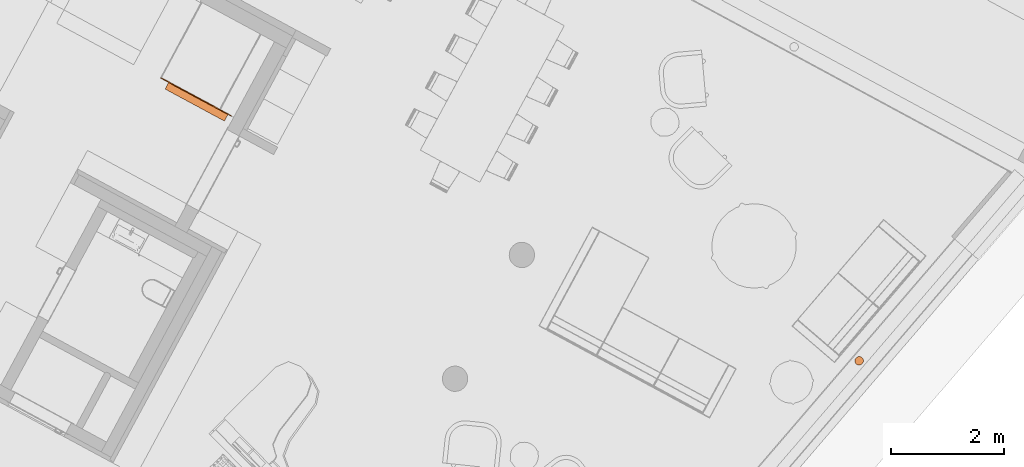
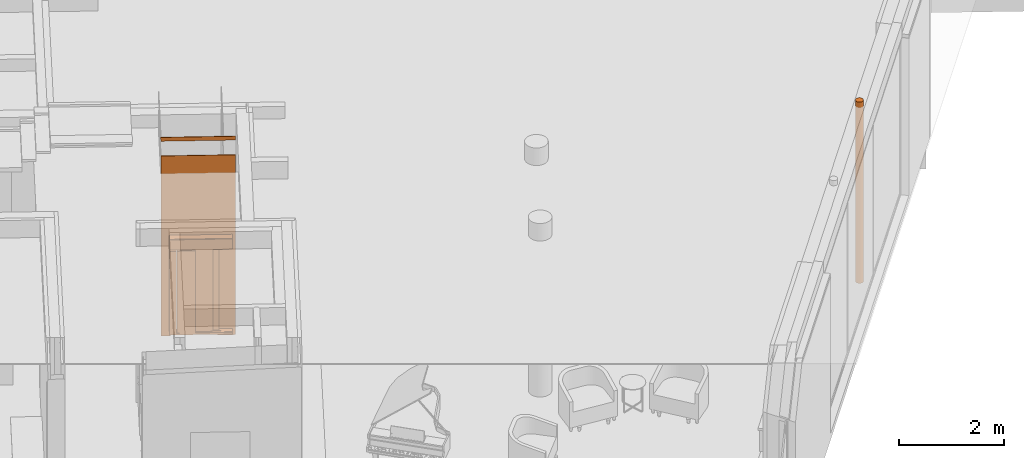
# One storey, part 47 of 52: 3 proxies, 1 opening.
"""IFC2X3 building model written with IfcOpenShell, lengths in metres."""

from ifc_helpers import new_model, entity, si_unit, converted_unit, derived_unit, money_unit, direction, frame, origin_with_axes, origin_2d_with_axis, place, context, subcontext, project, spatial, rectangle, extrude, open_shell, faceted_brep, surface_model, material, type_object, element, fill, save


model = new_model("IFC2X3")

# Units and contexts
model_context = context("Model", 3, precision=1e-05, world=origin_with_axes(), true_north=direction((0.0, 1.0)))
body_context = subcontext(model_context, "Body", "Model", "MODEL_VIEW")
ifc_project = project(units=[si_unit("LENGTHUNIT", "METRE"), si_unit("AREAUNIT", "SQUARE_METRE"), si_unit("VOLUMEUNIT", "CUBIC_METRE"), converted_unit("PLANEANGLEUNIT", "DEGREE", entity("IfcPlaneAngleMeasure", 0.0174532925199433), si_unit("PLANEANGLEUNIT", "RADIAN"), dimensions=[0, 0, 0, 0, 0, 0, 0]), money_unit("EUR"), converted_unit("TIMEUNIT", "Year", entity("IfcTimeMeasure", 31556926.0), si_unit("TIMEUNIT", "SECOND"), dimensions=[0, 0, 1, 0, 0, 0, 0]), si_unit("MASSUNIT", "GRAM", prefix="KILO"), si_unit("THERMODYNAMICTEMPERATUREUNIT", "DEGREE_CELSIUS"), si_unit("LUMINOUSINTENSITYUNIT", "LUMEN"), si_unit("ENERGYUNIT", "JOULE", prefix="MEGA"), derived_unit("THERMALCONDUCTANCEUNIT", [(si_unit("POWERUNIT", "WATT"), 1), (si_unit("LENGTHUNIT", "METRE"), -1), (si_unit("THERMODYNAMICTEMPERATUREUNIT", "KELVIN"), -1)]), derived_unit("SPECIFICHEATCAPACITYUNIT", [(si_unit("ENERGYUNIT", "JOULE"), 1), (si_unit("MASSUNIT", "GRAM", prefix="KILO"), -1), (si_unit("THERMODYNAMICTEMPERATUREUNIT", "KELVIN"), -1)]), derived_unit("MASSDENSITYUNIT", [(si_unit("MASSUNIT", "GRAM", prefix="KILO"), 1), (si_unit("VOLUMEUNIT", "CUBIC_METRE"), -1)])], contexts=[model_context])

# Site, building, storey
site_placement = place(None, frame((-3.949935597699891, 1.740105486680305, 0.0), z_axis=(0.0, 0.0, 1.0), x_axis=(0.8799804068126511, -0.475009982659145, 0.0)))
site = spatial("IfcSite", under=ifc_project, at=site_placement, Name="Gelände", CompositionType="ELEMENT")
building_placement = place(site_placement, origin_with_axes())
building = spatial("IfcBuilding", under=site, at=building_placement, Name="Gebäude", CompositionType="ELEMENT")
storey_placement = place(building_placement, origin_with_axes())
storey = spatial("IfcBuildingStorey", under=building, at=storey_placement, Name="Erdgeschoss", CompositionType="ELEMENT", Elevation=0.0)

# Proxies, opening
ifc_material_1 = material(Name="Glas, Normalglas")
building_element_proxy_type_1 = type_object("IfcBuildingElementProxyType", Name="Glas, Normalglas 10", PredefinedType="NOTDEFINED")
proxy_1_placement = place(storey_placement, frame((15.6924954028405, 9.127799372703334, -0.15), z_axis=(0.0, 0.0, 1.0), x_axis=(0.9999999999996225, 8.689518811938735e-07, 0.0)))
proxy_1 = element("IfcBuildingElementProxy", 1, at=proxy_1_placement, inside=storey, type_object=building_element_proxy_type_1, material=ifc_material_1, Name="I-Wand035", context=body_context, shape_type="Brep", body=[
    faceted_brep([(0.1842390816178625, 0.009999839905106, 2.2), (0.1842390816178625, 0.009999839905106, 0.15), (0.1842390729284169, 0.009999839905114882, 0.0), (0.01000001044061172, 0.00999999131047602, 0.0), (0.01000001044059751, 0.00999999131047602, 4.170000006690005), (1.424798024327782, 0.009998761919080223, 4.170000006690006), (1.424798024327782, 0.009998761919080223, 0.0), (1.084239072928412, 0.0099990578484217, 0.0), (1.084239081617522, 0.009999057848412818, 0.15), (1.084239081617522, 0.009999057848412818, 2.2), (0.1842390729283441, -1.600948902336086e-07, 2.2), (0.1842390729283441, -1.600948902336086e-07, 0.15), (0.1842390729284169, -1.600948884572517e-07, 0.0), (0.009999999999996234, -8.689518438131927e-09, 0.0), (0.009999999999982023, -8.689518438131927e-09, 4.170000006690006), (1.424798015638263, -1.238080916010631e-06, 4.170000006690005), (1.424798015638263, -1.238080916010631e-06, 0.0), (1.084239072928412, -9.421515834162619e-07, 0.0), (1.084239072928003, -9.421515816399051e-07, 0.15), (1.084239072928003, -9.421515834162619e-07, 2.2)], [[[0, 1, 2, 3, 4, 5, 6, 7, 8, 9]], [[1, 0, 10, 11]], [[1, 11, 12, 2]], [[2, 12, 13, 3]], [[14, 4, 3, 13]], [[15, 5, 4, 14]], [[5, 15, 16, 6]], [[17, 7, 6, 16]], [[18, 8, 7, 17]], [[9, 8, 18, 19]], [[0, 9, 19, 10]], [[19, 18, 17, 16, 15, 14, 13, 12, 11, 10]]]),
    faceted_brep([(1.424798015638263, -1.238080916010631e-06, 4.600000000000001), (1.424798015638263, -1.238080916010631e-06, 4.510000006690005), (1.424798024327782, 0.009998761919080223, 4.510000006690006), (1.424798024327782, 0.009998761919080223, 4.600000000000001), (0.009999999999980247, -8.689518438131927e-09, 4.55), (0.009999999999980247, -8.689518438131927e-09, 4.510000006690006), (0.0, 0.0, 4.600000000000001), (0.0, 0.0, 4.55), (0.01000001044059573, 0.00999999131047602, 4.510000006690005), (0.01000001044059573, 0.00999999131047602, 4.55), (1.044059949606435e-08, 0.009999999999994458, 4.55), (8.689518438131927e-09, 0.009999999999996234, 4.600000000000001)], [[[0, 1, 2, 3]], [[4, 5, 1, 0, 6, 7]], [[5, 8, 2, 1]], [[3, 2, 8, 9, 10, 11]], [[6, 0, 3, 11]], [[9, 8, 5, 4]], [[6, 11, 10, 7]], [[4, 7, 10, 9]]]),
])
opening_placement = place(proxy_1_placement, frame((0.6342390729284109, 0.0, 0.15), z_axis=(0.0, 0.0, 1.0), x_axis=(1.0, 0.0, 0.0)))
opening = element("IfcOpeningElement", 2, at=opening_placement, cuts=proxy_1, Name="Tür-011", context=body_context, shape_type="SweptSolid", body=[
    extrude(rectangle(XDim=0.9000000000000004, YDim=2.05, at=origin_2d_with_axis()), frame((8.689756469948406e-09, 0.009999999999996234, 1.025), z_axis=(8.689518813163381e-07, 0.9999999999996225, 0.0), x_axis=(0.9999999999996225, -8.689518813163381e-07, 0.0)), (0.0, 0.0, -1.0), 0.03),
])
building_element_proxy_type_2 = type_object("IfcBuildingElementProxyType", Name="Teleskoptür 22", PredefinedType="NOTDEFINED")
proxy_2_placement = place(opening_placement, frame((0.4499999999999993, 0.0, 0.0), z_axis=(0.0, 0.0, 1.0), x_axis=(-1.0, 0.0, 0.0)))
proxy_2 = element("IfcBuildingElementProxy", 3, at=proxy_2_placement, inside=storey, type_object=building_element_proxy_type_2, Name="Tür-011", context=body_context, shape_type="SurfaceModel", body=[
    faceted_brep([(-0.2774999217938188, 0.09000118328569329, 1.9), (-0.2774999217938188, 0.09000118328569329, 1.938), (0.9200000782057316, 0.09000014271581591, 1.938), (0.9200000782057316, 0.09000014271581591, 1.9), (-0.2774999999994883, 1.18328572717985e-06, 1.9), (-0.2774999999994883, 1.18328572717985e-06, 2.18), (-0.2774998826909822, 0.1350011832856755, 2.18), (-0.2774998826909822, 0.1350011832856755, 2.177), (-0.2774999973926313, 0.003001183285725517, 2.177), (-0.2774999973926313, 0.003001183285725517, 1.903), (-0.2774999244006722, 0.08700118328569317, 1.903), (-0.2774999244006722, 0.08700118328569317, 1.938), (0.9200000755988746, 0.0870001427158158, 1.938), (0.9200000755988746, 0.0870001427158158, 1.903), (0.9200000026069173, 0.003000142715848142, 1.903), (0.9200000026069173, 0.003000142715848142, 2.177), (0.9200001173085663, 0.1350001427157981, 2.177), (0.9200001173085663, 0.1350001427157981, 2.18), (0.9200000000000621, 1.42715849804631e-07, 2.18), (0.9200000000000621, 1.42715849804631e-07, 1.9)], [[[0, 1, 2, 3]], [[0, 4, 5, 6, 7, 8, 9, 10, 11, 1]], [[1, 11, 12, 2]], [[3, 2, 12, 13, 14, 15, 16, 17, 18, 19]], [[4, 0, 3, 19]], [[5, 4, 19, 18]], [[6, 5, 18, 17]], [[7, 6, 17, 16]], [[8, 7, 16, 15]], [[9, 8, 15, 14]], [[10, 9, 14, 13]], [[11, 10, 13, 12]]]),
    faceted_brep([(-0.2774999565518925, 0.05000118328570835, 1.903), (-0.2774999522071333, 0.05500118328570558, 1.903), (0.9200000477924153, 0.0550001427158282, 1.903), (0.9200000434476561, 0.0500001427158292, 1.903), (-0.2774999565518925, 0.05000118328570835, 2.14), (-0.2774999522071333, 0.05500118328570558, 2.14), (0.9200000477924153, 0.0550001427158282, 2.14), (0.9200000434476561, 0.0500001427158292, 2.14)], [[[0, 1, 2, 3]], [[0, 4, 5, 1]], [[1, 5, 6, 2]], [[3, 2, 6, 7]], [[4, 0, 3, 7]], [[5, 4, 7, 6]]]),
    faceted_brep([(-0.2774999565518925, 0.05000118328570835, 2.13), (-0.277499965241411, 0.04000118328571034, 2.13), (0.9200000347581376, 0.04000014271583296, 2.13), (0.9200000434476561, 0.0500001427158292, 2.13), (-0.2774999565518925, 0.05000118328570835, 2.07), (-0.277499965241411, 0.04000118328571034, 2.07), (0.9200000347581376, 0.04000014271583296, 2.07), (0.9200000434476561, 0.0500001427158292, 2.07)], [[[0, 1, 2, 3]], [[0, 4, 5, 1]], [[1, 5, 6, 2]], [[3, 2, 6, 7]], [[4, 0, 3, 7]], [[5, 4, 7, 6]]]),
    faceted_brep([(-0.2774999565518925, 0.05000118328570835, 2.0), (-0.277499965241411, 0.04000118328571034, 2.0), (0.9200000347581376, 0.04000014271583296, 2.0), (0.9200000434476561, 0.0500001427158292, 2.0), (-0.2774999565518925, 0.05000118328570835, 1.96), (-0.277499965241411, 0.04000118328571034, 1.96), (0.9200000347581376, 0.04000014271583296, 1.96), (0.9200000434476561, 0.0500001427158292, 1.96)], [[[0, 1, 2, 3]], [[0, 4, 5, 1]], [[1, 5, 6, 2]], [[3, 2, 6, 7]], [[4, 0, 3, 7]], [[5, 4, 7, 6]]]),
    faceted_brep([(-0.2774999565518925, 0.05000118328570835, 2.07), (-0.2774999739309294, 0.03000118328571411, 2.07), (0.9200000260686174, 0.03000014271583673, 2.07), (0.9200000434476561, 0.0500001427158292, 2.07), (-0.2774999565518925, 0.05000118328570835, 2.0), (-0.2774999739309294, 0.03000118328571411, 2.0), (0.9200000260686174, 0.03000014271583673, 2.0), (0.9200000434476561, 0.0500001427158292, 2.0)], [[[0, 1, 2, 3]], [[0, 4, 5, 1]], [[1, 5, 6, 2]], [[3, 2, 6, 7]], [[4, 0, 3, 7]], [[5, 4, 7, 6]]]),
    faceted_brep([(-0.2774999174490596, 0.09500118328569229, 1.903), (-0.2774999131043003, 0.1000011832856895, 1.903), (0.92000008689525, 0.1000001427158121, 1.903), (0.9200000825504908, 0.09500014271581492, 1.903), (-0.2774999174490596, 0.09500118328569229, 2.14), (-0.2774999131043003, 0.1000011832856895, 2.14), (0.92000008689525, 0.1000001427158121, 2.14), (0.9200000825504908, 0.09500014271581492, 2.14)], [[[0, 1, 2, 3]], [[0, 4, 5, 1]], [[1, 5, 6, 2]], [[3, 2, 6, 7]], [[4, 0, 3, 7]], [[5, 4, 7, 6]]]),
    faceted_brep([(-0.2774999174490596, 0.09500118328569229, 2.13), (-0.277499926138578, 0.08500118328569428, 2.13), (0.9200000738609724, 0.0850001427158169, 2.13), (0.9200000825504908, 0.09500014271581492, 2.13), (-0.2774999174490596, 0.09500118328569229, 2.07), (-0.277499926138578, 0.08500118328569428, 2.07), (0.9200000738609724, 0.0850001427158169, 2.07), (0.9200000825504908, 0.09500014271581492, 2.07)], [[[0, 1, 2, 3]], [[0, 4, 5, 1]], [[1, 5, 6, 2]], [[3, 2, 6, 7]], [[4, 0, 3, 7]], [[5, 4, 7, 6]]]),
    faceted_brep([(-0.2774999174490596, 0.09500118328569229, 2.0), (-0.277499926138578, 0.08500118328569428, 2.0), (0.9200000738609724, 0.0850001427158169, 2.0), (0.9200000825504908, 0.09500014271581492, 2.0), (-0.2774999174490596, 0.09500118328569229, 1.96), (-0.277499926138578, 0.08500118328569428, 1.96), (0.9200000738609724, 0.0850001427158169, 1.96), (0.9200000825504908, 0.09500014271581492, 1.96)], [[[0, 1, 2, 3]], [[0, 4, 5, 1]], [[1, 5, 6, 2]], [[3, 2, 6, 7]], [[4, 0, 3, 7]], [[5, 4, 7, 6]]]),
    faceted_brep([(-0.2774999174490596, 0.09500118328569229, 2.07), (-0.2774999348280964, 0.07500118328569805, 2.07), (0.9200000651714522, 0.07500014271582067, 2.07), (0.9200000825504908, 0.09500014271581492, 2.07), (-0.2774999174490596, 0.09500118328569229, 2.0), (-0.2774999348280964, 0.07500118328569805, 2.0), (0.9200000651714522, 0.07500014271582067, 2.0), (0.9200000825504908, 0.09500014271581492, 2.0)], [[[0, 1, 2, 3]], [[0, 4, 5, 1]], [[1, 5, 6, 2]], [[3, 2, 6, 7]], [[4, 0, 3, 7]], [[5, 4, 7, 6]]]),
    faceted_brep([(-0.2774999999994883, 1.18328572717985e-06, 0.0), (-0.2774999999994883, 1.18328572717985e-06, -0.04), (0.9200000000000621, 1.42715849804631e-07, -0.04), (0.9200000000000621, 1.42715849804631e-07, 0.0), (-0.2774999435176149, 0.06500118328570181, 0.0), (-0.2774999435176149, 0.06500118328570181, -0.009999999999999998), (-0.2774999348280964, 0.07500118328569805, -0.009999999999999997), (-0.2774999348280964, 0.07500118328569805, 0.0), (-0.2774999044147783, 0.110001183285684, 0.0), (-0.2774999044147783, 0.110001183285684, -0.009999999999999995), (-0.2774998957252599, 0.1200011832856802, -0.009999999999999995), (-0.2774998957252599, 0.1200011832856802, 0.0), (-0.2774998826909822, 0.1350011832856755, 0.0), (-0.2774998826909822, 0.1350011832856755, -0.03999999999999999), (0.9200001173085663, 0.1350001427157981, -0.03999999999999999), (0.9200001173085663, 0.1350001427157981, 0.0), (0.9200001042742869, 0.1200001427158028, 0.0), (0.9200001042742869, 0.1200001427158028, -0.009999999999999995), (0.9200000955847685, 0.1100001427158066, -0.009999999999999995), (0.9200000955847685, 0.1100001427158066, 0.0), (0.9200000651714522, 0.07500014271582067, 0.0), (0.9200000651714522, 0.07500014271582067, -0.009999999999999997), (0.9200000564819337, 0.06500014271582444, -0.009999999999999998), (0.9200000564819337, 0.06500014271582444, 0.0)], [[[0, 1, 2, 3]], [[0, 4, 5, 6, 7, 8, 9, 10, 11, 12, 13, 1]], [[1, 13, 14, 2]], [[3, 2, 14, 15, 16, 17, 18, 19, 20, 21, 22, 23]], [[4, 0, 3, 23]], [[5, 4, 23, 22]], [[6, 5, 22, 21]], [[7, 6, 21, 20]], [[8, 7, 20, 19]], [[9, 8, 19, 18]], [[10, 9, 18, 17]], [[11, 10, 17, 16]], [[12, 11, 16, 15]], [[13, 12, 15, 14]]]),
    faceted_brep([(0.1150000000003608, 8.422221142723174e-07, 0.0), (0.1150000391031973, 0.04500084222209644, 0.0), (0.1150000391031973, 0.04500084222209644, 1.9), (0.1150000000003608, 8.422221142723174e-07, 1.9), (-0.01999999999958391, 9.59530618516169e-07, 0.0), (-0.01999996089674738, 0.04500095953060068, 0.0), (-0.01999996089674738, 0.04500095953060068, 1.9), (-0.01999999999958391, 9.59530618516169e-07, 1.9)], [[[0, 1, 2, 3]], [[0, 4, 5, 1]], [[1, 5, 6, 2]], [[3, 2, 6, 7]], [[4, 0, 3, 7]], [[5, 4, 7, 6]]]),
    faceted_brep([(0.9200000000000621, 1.42715849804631e-07, 0.0), (0.9200001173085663, 0.1350001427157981, 0.0), (0.9200001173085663, 0.1350001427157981, 1.9), (0.9200000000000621, 1.42715849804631e-07, 1.9), (0.785000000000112, 2.600243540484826e-07, 0.0), (0.7850001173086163, 0.1350002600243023, 0.0), (0.7850001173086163, 0.1350002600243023, 1.9), (0.785000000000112, 2.600243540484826e-07, 1.9)], [[[0, 1, 2, 3]], [[0, 4, 5, 1]], [[1, 5, 6, 2]], [[3, 2, 6, 7]], [[4, 0, 3, 7]], [[5, 4, 7, 6]]]),
    faceted_brep([(-0.1800000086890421, -0.009998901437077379, 0.8), (-0.1000000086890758, -0.00999897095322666, 0.8), (-0.1000000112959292, -0.012998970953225, 0.8), (-0.1800000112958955, -0.01299890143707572, 0.8), (-0.1800000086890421, -0.009998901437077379, 1.06), (-0.1000000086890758, -0.00999897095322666, 1.06), (-0.1700000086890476, -0.009998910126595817, 1.03), (-0.1700000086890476, -0.009998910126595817, 0.9400000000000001), (-0.1100000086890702, -0.009998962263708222, 0.9400000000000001), (-0.1100000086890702, -0.009998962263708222, 1.03), (-0.1500000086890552, -0.009998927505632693, 0.8400000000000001), (-0.1300000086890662, -0.009998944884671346, 0.8400000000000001), (-0.1300000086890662, -0.009998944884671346, 0.8600000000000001), (-0.1500000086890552, -0.009998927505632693, 0.8600000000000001), (-0.1500000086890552, -0.009998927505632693, 0.88), (-0.1300000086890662, -0.009998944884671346, 0.88), (-0.1300000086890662, -0.009998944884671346, 0.9), (-0.1500000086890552, -0.009998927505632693, 0.9), (-0.1000000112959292, -0.012998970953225, 1.06), (-0.1800000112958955, -0.01299890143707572, 1.06), (-0.170000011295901, -0.01299891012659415, 1.03), (-0.1100000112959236, -0.01299896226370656, 1.03), (-0.1100000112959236, -0.01299896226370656, 0.9400000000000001), (-0.170000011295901, -0.01299891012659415, 0.9400000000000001), (-0.1500000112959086, -0.01299892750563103, 0.8400000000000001), (-0.1500000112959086, -0.01299892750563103, 0.8600000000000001), (-0.1300000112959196, -0.01299894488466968, 0.8600000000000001), (-0.1300000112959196, -0.01299894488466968, 0.8400000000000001), (-0.1500000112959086, -0.01299892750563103, 0.88), (-0.1500000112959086, -0.01299892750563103, 0.9), (-0.1300000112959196, -0.01299894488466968, 0.9), (-0.1300000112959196, -0.01299894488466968, 0.88)], [[[0, 1, 2, 3]], [[0, 4, 5, 1], [6, 7, 8, 9], [10, 11, 12, 13], [14, 15, 16, 17]], [[1, 5, 18, 2]], [[3, 2, 18, 19], [20, 21, 22, 23], [24, 25, 26, 27], [28, 29, 30, 31]], [[4, 0, 3, 19]], [[5, 4, 19, 18]], [[7, 6, 20, 23]], [[8, 7, 23, 22]], [[9, 8, 22, 21]], [[6, 9, 21, 20]], [[11, 10, 24, 27]], [[12, 11, 27, 26]], [[13, 12, 26, 25]], [[10, 13, 25, 24]], [[15, 14, 28, 31]], [[16, 15, 31, 30]], [[17, 16, 30, 29]], [[14, 17, 29, 28]]]),
    faceted_brep([(-0.1700000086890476, -0.009998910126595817, 0.9400000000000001), (-0.1100000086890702, -0.009998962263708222, 0.9400000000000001), (-0.1100000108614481, -0.01249896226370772, 0.9400000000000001), (-0.1700000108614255, -0.01249891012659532, 0.9400000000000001), (-0.1700000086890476, -0.009998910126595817, 1.03), (-0.1100000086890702, -0.009998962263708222, 1.03), (-0.1100000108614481, -0.01249896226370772, 1.03), (-0.1700000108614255, -0.01249891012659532, 1.03)], [[[0, 1, 2, 3]], [[0, 4, 5, 1]], [[1, 5, 6, 2]], [[3, 2, 6, 7]], [[4, 0, 3, 7]], [[5, 4, 7, 6]]]),
    surface_model("IfcShellBasedSurfaceModel", [(-0.1560000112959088, -0.01299892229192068, 1.005), (-0.1500000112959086, -0.01299892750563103, 1.021), (-0.1440000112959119, -0.01299893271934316, 1.005)], [open_shell([[[0, 1, 2]]])]),
    surface_model("IfcShellBasedSurfaceModel", [(-0.1300000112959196, -0.01299894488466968, 1.005), (-0.1360000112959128, -0.01299893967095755, 1.021), (-0.1240000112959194, -0.01299895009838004, 1.021)], [open_shell([[[0, 1, 2]]])]),
    surface_model("IfcShellBasedSurfaceModel", [(-0.1427272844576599, -0.01349893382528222, 0.9820000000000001), (-0.1427272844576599, -0.01349893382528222, 0.9716363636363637), (-0.144090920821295, -0.01349893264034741, 0.9702727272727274), (-0.1454545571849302, -0.01349893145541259, 0.9716363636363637), (-0.1454545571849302, -0.01349893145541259, 0.9820000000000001), (-0.144090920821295, -0.01349893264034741, 0.9833636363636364)], [open_shell([[[0, 1, 2, 3, 4, 5]]])]),
    surface_model("IfcShellBasedSurfaceModel", [(-0.1427272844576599, -0.01349893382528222, 0.9683636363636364), (-0.1427272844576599, -0.01349893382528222, 0.9580000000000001), (-0.144090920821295, -0.01349893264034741, 0.9566363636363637), (-0.1454545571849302, -0.01349893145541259, 0.9580000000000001), (-0.1454545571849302, -0.01349893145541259, 0.9683636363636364), (-0.144090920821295, -0.01349893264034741, 0.9697272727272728)], [open_shell([[[0, 1, 2, 3, 4, 5]]])]),
    surface_model("IfcShellBasedSurfaceModel", [(-0.1239091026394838, -0.01349895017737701, 0.9822727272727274), (-0.1342727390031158, -0.01349894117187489, 0.9822727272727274), (-0.1356363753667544, -0.01349893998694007, 0.9836363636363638), (-0.1342727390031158, -0.01349894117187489, 0.9850000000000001), (-0.1239091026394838, -0.01349895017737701, 0.9850000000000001), (-0.1225454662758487, -0.01349895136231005, 0.9836363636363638)], [open_shell([[[0, 1, 2, 3, 4, 5]]])]),
    surface_model("IfcShellBasedSurfaceModel", [(-0.1209091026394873, -0.01349895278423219, 0.9820000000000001), (-0.1209091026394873, -0.01349895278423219, 0.9716363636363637), (-0.1222727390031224, -0.01349895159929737, 0.9702727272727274), (-0.1236363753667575, -0.01349895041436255, 0.9716363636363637), (-0.1236363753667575, -0.01349895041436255, 0.9820000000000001), (-0.1222727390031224, -0.01349895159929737, 0.9833636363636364)], [open_shell([[[0, 1, 2, 3, 4, 5]]])]),
    surface_model("IfcShellBasedSurfaceModel", [(-0.1239091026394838, -0.01349895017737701, 0.9686363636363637), (-0.1342727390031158, -0.01349894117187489, 0.9686363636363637), (-0.1356363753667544, -0.01349893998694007, 0.9700000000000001), (-0.1342727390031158, -0.01349894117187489, 0.9713636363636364), (-0.1239091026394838, -0.01349895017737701, 0.9713636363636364), (-0.1225454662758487, -0.01349895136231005, 0.9700000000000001)], [open_shell([[[0, 1, 2, 3, 4, 5]]])]),
    surface_model("IfcShellBasedSurfaceModel", [(-0.1345454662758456, -0.01349894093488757, 0.9683636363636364), (-0.1345454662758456, -0.01349894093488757, 0.9580000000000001), (-0.1359091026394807, -0.01349893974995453, 0.9566363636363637), (-0.1372727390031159, -0.01349893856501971, 0.9580000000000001), (-0.1372727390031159, -0.01349893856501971, 0.9683636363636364), (-0.1359091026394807, -0.01349893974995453, 0.9697272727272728)], [open_shell([[[0, 1, 2, 3, 4, 5]]])]),
    surface_model("IfcShellBasedSurfaceModel", [(-0.1239091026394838, -0.01349895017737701, 0.9550000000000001), (-0.1342727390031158, -0.01349894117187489, 0.9550000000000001), (-0.1356363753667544, -0.01349893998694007, 0.9563636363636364), (-0.1342727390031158, -0.01349894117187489, 0.9577272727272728), (-0.1239091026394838, -0.01349895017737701, 0.9577272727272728), (-0.1225454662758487, -0.01349895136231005, 0.9563636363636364)], [open_shell([[[0, 1, 2, 3, 4, 5]]])]),
    faceted_brep([(-0.1300000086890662, -0.009998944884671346, 0.8400000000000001), (-0.1500000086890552, -0.009998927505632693, 0.8400000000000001), (-0.1500000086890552, -0.009998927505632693, 0.8600000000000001), (-0.1300000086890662, -0.009998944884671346, 0.8600000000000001), (-0.1300000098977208, -0.0114989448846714, 0.8399999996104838), (-0.1500000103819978, -0.01149892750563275, 0.8399999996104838), (-0.1500000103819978, -0.01149892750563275, 0.8600000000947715), (-0.1300000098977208, -0.0114989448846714, 0.8600000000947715), (-0.131400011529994, -0.01289894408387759, 0.8414000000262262), (-0.1486000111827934, -0.01289892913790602, 0.8414000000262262), (-0.1486000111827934, -0.01289892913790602, 0.8585999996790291), (-0.131400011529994, -0.01289894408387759, 0.8585999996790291)], [[[0, 1, 2, 3]], [[1, 0, 4, 5]], [[2, 1, 5, 6]], [[3, 2, 6, 7]], [[0, 3, 7, 4]], [[5, 4, 8, 9]], [[6, 5, 9, 10]], [[7, 6, 10, 11]], [[4, 7, 11, 8]], [[10, 9, 8, 11]]]),
    surface_model("IfcShellBasedSurfaceModel", [(-0.1350000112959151, -0.01299894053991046, 0.8550000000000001), (-0.1400000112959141, -0.01299893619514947, 0.8440000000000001), (-0.1450000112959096, -0.01299893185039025, 0.8550000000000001)], [open_shell([[[0, 1, 2]]])]),
    faceted_brep([(-0.1300000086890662, -0.009998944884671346, 0.8800000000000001), (-0.1500000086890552, -0.009998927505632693, 0.8800000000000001), (-0.1500000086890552, -0.009998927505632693, 0.9000000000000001), (-0.1300000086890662, -0.009998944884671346, 0.9000000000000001), (-0.1300000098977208, -0.0114989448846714, 0.8799999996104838), (-0.1500000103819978, -0.01149892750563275, 0.8799999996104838), (-0.1500000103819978, -0.01149892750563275, 0.9000000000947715), (-0.1300000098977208, -0.0114989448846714, 0.9000000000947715), (-0.131400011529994, -0.01289894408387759, 0.8814000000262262), (-0.1486000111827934, -0.01289892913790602, 0.8814000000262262), (-0.1486000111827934, -0.01289892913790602, 0.8985999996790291), (-0.131400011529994, -0.01289894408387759, 0.8985999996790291)], [[[0, 1, 2, 3]], [[1, 0, 4, 5]], [[2, 1, 5, 6]], [[3, 2, 6, 7]], [[0, 3, 7, 4]], [[5, 4, 8, 9]], [[6, 5, 9, 10]], [[7, 6, 10, 11]], [[4, 7, 11, 8]], [[10, 9, 8, 11]]]),
    surface_model("IfcShellBasedSurfaceModel", [(-0.1350000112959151, -0.01299894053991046, 0.8850000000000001), (-0.1450000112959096, -0.01299893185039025, 0.8850000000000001), (-0.1400000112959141, -0.01299893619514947, 0.8960000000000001)], [open_shell([[[0, 1, 2]]])]),
    faceted_brep([(0.4275000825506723, 0.09500057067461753, 0.003000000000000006), (0.4275001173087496, 0.1350005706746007, 0.003000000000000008), (0.7800001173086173, 0.1350002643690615, 0.003000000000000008), (0.7800000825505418, 0.09500026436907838, 0.003000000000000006), (0.4275000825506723, 0.09500057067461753, 1.9), (0.4275001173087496, 0.1350005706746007, 1.9), (0.7800001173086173, 0.1350002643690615, 1.9), (0.7800000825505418, 0.09500026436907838, 1.9)], [[[0, 1, 2, 3]], [[4, 5, 1, 0]], [[1, 5, 6, 2]], [[3, 2, 6, 7]], [[0, 3, 7, 4]], [[7, 6, 5, 4]]]),
    faceted_brep([(0.09500004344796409, 0.0500008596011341, 0.003000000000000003), (0.09500007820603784, 0.09000085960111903, 0.003000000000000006), (0.4475000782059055, 0.09000055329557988, 0.003000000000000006), (0.4475000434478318, 0.05000055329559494, 0.003000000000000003), (0.09500004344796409, 0.0500008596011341, 1.9), (0.09500007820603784, 0.09000085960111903, 1.9), (0.4475000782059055, 0.09000055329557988, 1.9), (0.4475000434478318, 0.05000055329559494, 1.9)], [[[0, 1, 2, 3]], [[4, 5, 1, 0]], [[1, 5, 6, 2]], [[3, 2, 6, 7]], [[0, 3, 7, 4]], [[7, 6, 5, 4]]]),
])
fill(opening, proxy_2)

# Proxy
ifc_material_2 = material(Name="Metall, Edelstahl")
building_element_proxy_type_3 = type_object("IfcBuildingElementProxyType", Name="Metall, Edelstahl D152", PredefinedType="NOTDEFINED")
proxy_3_placement = place(storey_placement, frame((29.00554945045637, 10.6023659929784, -0.1800000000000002), z_axis=(0.0, 0.0, 1.0), x_axis=(0.9769696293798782, -0.2133784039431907, 0.0)))
element("IfcBuildingElementProxy", 4, at=proxy_3_placement, inside=storey, type_object=building_element_proxy_type_3, material=ifc_material_2, Name="Stütze-003", context=body_context, shape_type="Brep", body=[
    faceted_brep([(-0.07600000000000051, 0.0, 4.200000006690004), (-0.07600000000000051, 0.0, 0.0), (-0.0722802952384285, -0.02348529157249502, 0.0), (-0.0722802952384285, -0.02348529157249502, 4.200000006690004), (-0.0722802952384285, 0.02348529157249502, 4.200000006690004), (-0.0722802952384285, 0.02348529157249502, 0.0), (-0.06148529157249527, 0.04467167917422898, 0.0), (-0.04467167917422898, 0.06148529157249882, 0.0), (-0.02348529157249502, 0.07228029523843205, 0.0), (0.0, 0.07600000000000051, 0.0), (0.02348529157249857, 0.07228029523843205, 0.0), (0.04467167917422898, 0.06148529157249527, 0.0), (0.06148529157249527, 0.04467167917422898, 0.0), (0.07228029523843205, 0.02348529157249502, 0.0), (0.07600000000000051, 0.0, 0.0), (0.07228029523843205, -0.02348529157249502, 0.0), (0.06148529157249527, -0.04467167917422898, 0.0), (0.04467167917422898, -0.06148529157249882, 0.0), (0.02348529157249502, -0.07228029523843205, 0.0), (0.0, -0.07600000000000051, 0.0), (-0.02348529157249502, -0.07228029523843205, 0.0), (-0.04467167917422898, -0.06148529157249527, 0.0), (-0.06148529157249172, -0.04467167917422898, 0.0), (-0.06148529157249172, -0.04467167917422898, 4.200000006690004), (-0.04467167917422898, -0.06148529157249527, 4.200000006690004), (-0.02348529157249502, -0.07228029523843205, 4.200000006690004), (0.0, -0.07600000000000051, 4.200000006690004), (0.02348529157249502, -0.07228029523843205, 4.200000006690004), (0.04467167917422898, -0.06148529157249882, 4.200000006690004), (0.06148529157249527, -0.04467167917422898, 4.200000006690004), (0.07228029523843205, -0.02348529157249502, 4.200000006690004), (0.07600000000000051, 0.0, 4.200000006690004), (0.07228029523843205, 0.02348529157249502, 4.200000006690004), (0.06148529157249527, 0.04467167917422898, 4.200000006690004), (0.04467167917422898, 0.06148529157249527, 4.200000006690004), (0.02348529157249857, 0.07228029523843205, 4.200000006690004), (0.0, 0.07600000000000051, 4.200000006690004), (-0.02348529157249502, 0.07228029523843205, 4.200000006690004), (-0.04467167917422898, 0.06148529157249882, 4.200000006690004), (-0.06148529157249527, 0.04467167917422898, 4.200000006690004)], [[[0, 1, 2, 3]], [[4, 5, 1, 0]], [[2, 1, 5, 6, 7, 8, 9, 10, 11, 12, 13, 14, 15, 16, 17, 18, 19, 20, 21, 22]], [[3, 2, 22, 23]], [[4, 0, 3, 23, 24, 25, 26, 27, 28, 29, 30, 31, 32, 33, 34, 35, 36, 37, 38, 39]], [[39, 6, 5, 4]], [[38, 7, 6, 39]], [[37, 8, 7, 38]], [[36, 9, 8, 37]], [[35, 10, 9, 36]], [[34, 11, 10, 35]], [[33, 12, 11, 34]], [[32, 13, 12, 33]], [[31, 14, 13, 32]], [[30, 15, 14, 31]], [[29, 16, 15, 30]], [[28, 17, 16, 29]], [[27, 18, 17, 28]], [[26, 19, 18, 27]], [[25, 20, 19, 26]], [[24, 21, 20, 25]], [[23, 22, 21, 24]]]),
])

save(model, "model.ifc")
